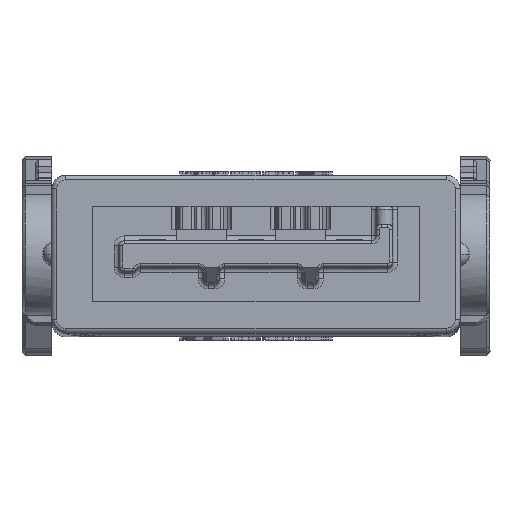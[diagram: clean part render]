
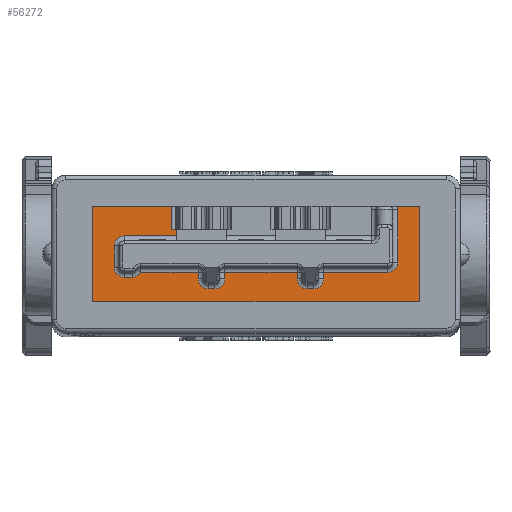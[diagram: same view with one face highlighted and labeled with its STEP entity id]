
A CAD part, top view. The second image highlights one B-rep face of the part: STEP entity #56272.
In plain terms, the highlighted planar face has unit normal (0, 0, 1).
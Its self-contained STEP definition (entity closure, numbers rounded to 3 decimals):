
#16370=DIRECTION('',(0.,-1.,0.));
#16371=VECTOR('',#16370,2.9);
#16372=CARTESIAN_POINT('',(4.8,1.45,33.));
#16373=LINE('',#16372,#16371);
#16390=DIRECTION('',(0.,1.,0.));
#16391=VECTOR('',#16390,2.9);
#16392=CARTESIAN_POINT('',(-5.1,-1.45,33.));
#16393=LINE('',#16392,#16391);
#16406=DIRECTION('',(0.,-1.,0.));
#16407=VECTOR('',#16406,0.7);
#16408=CARTESIAN_POINT('',(-2.7,1.45,33.));
#16409=LINE('',#16408,#16407);
#16686=CARTESIAN_POINT('',(-1.6,-0.75,33.));
#16687=DIRECTION('',(0.,0.,-1.));
#16688=DIRECTION('',(0.,-1.,0.));
#16689=AXIS2_PLACEMENT_3D('',#16686,#16687,#16688);
#16691=CARTESIAN_POINT('',(-1.4,-0.75,33.));
#16692=DIRECTION('',(0.,0.,-1.));
#16693=DIRECTION('',(1.,0.,0.));
#16694=AXIS2_PLACEMENT_3D('',#16691,#16692,#16693);
#16696=CARTESIAN_POINT('',(1.4,-0.75,33.));
#16697=DIRECTION('',(0.,0.,-1.));
#16698=DIRECTION('',(0.,-1.,0.));
#16699=AXIS2_PLACEMENT_3D('',#16696,#16697,#16698);
#16701=CARTESIAN_POINT('',(1.6,-0.75,33.));
#16702=DIRECTION('',(0.,0.,-1.));
#16703=DIRECTION('',(1.,0.,0.));
#16704=AXIS2_PLACEMENT_3D('',#16701,#16702,#16703);
#16706=DIRECTION('',(1.,0.,0.));
#16707=VECTOR('',#16706,1.95);
#16708=CARTESIAN_POINT('',(1.9,-0.55,33.));
#16709=LINE('',#16708,#16707);
#16710=CARTESIAN_POINT('',(3.85,-0.25,33.));
#16711=DIRECTION('',(0.,0.,-1.));
#16712=DIRECTION('',(1.,0.,0.));
#16713=AXIS2_PLACEMENT_3D('',#16710,#16711,#16712);
#16715=CARTESIAN_POINT('',(3.9,1.35,33.));
#16716=DIRECTION('',(0.,0.,-1.));
#16717=DIRECTION('',(0.917,0.4,0.));
#16718=AXIS2_PLACEMENT_3D('',#16715,#16716,#16717);
#16720=DIRECTION('',(-1.,0.,0.));
#16721=VECTOR('',#16720,0.671);
#16722=CARTESIAN_POINT('',(4.8,1.45,33.));
#16723=LINE('',#16722,#16721);
#16724=DIRECTION('',(1.,0.,0.));
#16725=VECTOR('',#16724,9.9);
#16726=CARTESIAN_POINT('',(-5.1,-1.45,33.));
#16727=LINE('',#16726,#16725);
#16728=DIRECTION('',(-1.,0.,0.));
#16729=VECTOR('',#16728,2.4);
#16730=CARTESIAN_POINT('',(-2.7,1.45,33.));
#16731=LINE('',#16730,#16729);
#16732=DIRECTION('',(-1.,0.,0.));
#16733=VECTOR('',#16732,1.6);
#16734=CARTESIAN_POINT('',(-2.55,0.55,33.));
#16735=LINE('',#16734,#16733);
#16736=CARTESIAN_POINT('',(-4.15,0.25,33.));
#16737=DIRECTION('',(0.,0.,-1.));
#16738=DIRECTION('',(-1.,0.,0.));
#16739=AXIS2_PLACEMENT_3D('',#16736,#16737,#16738);
#16741=CARTESIAN_POINT('',(-4.15,-0.4,33.));
#16742=DIRECTION('',(0.,0.,-1.));
#16743=DIRECTION('',(0.,-1.,0.));
#16744=AXIS2_PLACEMENT_3D('',#16741,#16742,#16743);
#16746=CARTESIAN_POINT('',(-3.91,-0.4,33.));
#16747=DIRECTION('',(0.,0.,-1.));
#16748=DIRECTION('',(0.866,-0.5,0.));
#16749=AXIS2_PLACEMENT_3D('',#16746,#16747,#16748);
#16751=DIRECTION('',(-1.,0.,0.));
#16752=VECTOR('',#16751,1.75);
#16753=CARTESIAN_POINT('',(-1.9,-0.55,33.));
#16754=LINE('',#16753,#16752);
#16780=DIRECTION('',(1.,0.,0.));
#16781=VECTOR('',#16780,0.24);
#16782=CARTESIAN_POINT('',(-4.15,-0.7,33.));
#16783=LINE('',#16782,#16781);
#16803=DIRECTION('',(0.,-1.,0.));
#16804=VECTOR('',#16803,0.65);
#16805=CARTESIAN_POINT('',(-4.45,0.25,33.));
#16806=LINE('',#16805,#16804);
#17364=DIRECTION('',(0.,-1.,0.));
#17365=VECTOR('',#17364,0.2);
#17366=CARTESIAN_POINT('',(-2.55,0.75,33.));
#17367=LINE('',#17366,#17365);
#17381=DIRECTION('',(1.,0.,0.));
#17382=VECTOR('',#17381,0.15);
#17383=CARTESIAN_POINT('',(-2.7,0.75,33.));
#17384=LINE('',#17383,#17382);
#18263=DIRECTION('',(-1.,0.,0.));
#18264=VECTOR('',#18263,2.2);
#18265=CARTESIAN_POINT('',(1.1,-0.55,33.));
#18266=LINE('',#18265,#18264);
#18287=DIRECTION('',(0.,1.,0.));
#18288=VECTOR('',#18287,0.2);
#18289=CARTESIAN_POINT('',(-1.1,-0.75,33.));
#18290=LINE('',#18289,#18288);
#18314=DIRECTION('',(1.,0.,0.));
#18315=VECTOR('',#18314,0.2);
#18316=CARTESIAN_POINT('',(-1.6,-1.05,33.));
#18317=LINE('',#18316,#18315);
#18337=DIRECTION('',(0.,-1.,0.));
#18338=VECTOR('',#18337,0.2);
#18339=CARTESIAN_POINT('',(-1.9,-0.55,33.));
#18340=LINE('',#18339,#18338);
#18637=DIRECTION('',(0.,1.,0.));
#18638=VECTOR('',#18637,0.2);
#18639=CARTESIAN_POINT('',(1.9,-0.75,33.));
#18640=LINE('',#18639,#18638);
#18664=DIRECTION('',(1.,0.,0.));
#18665=VECTOR('',#18664,0.2);
#18666=CARTESIAN_POINT('',(1.4,-1.05,33.));
#18667=LINE('',#18666,#18665);
#18687=DIRECTION('',(0.,-1.,0.));
#18688=VECTOR('',#18687,0.2);
#18689=CARTESIAN_POINT('',(1.1,-0.55,33.));
#18690=LINE('',#18689,#18688);
#18813=DIRECTION('',(0.,1.,0.));
#18814=VECTOR('',#18813,1.6);
#18815=CARTESIAN_POINT('',(4.15,-0.25,33.));
#18816=LINE('',#18815,#18814);
#18827=CARTESIAN_POINT('',(4.129,1.45,33.));
#22696=CARTESIAN_POINT('',(-5.1,-1.45,33.));
#22697=CARTESIAN_POINT('',(-5.1,1.45,33.));
#22698=VERTEX_POINT('',#22696);
#22699=VERTEX_POINT('',#22697);
#22700=CARTESIAN_POINT('',(-2.7,1.45,33.));
#22701=VERTEX_POINT('',#22700);
#22783=VERTEX_POINT('',#18827);
#22784=CARTESIAN_POINT('',(4.8,1.45,33.));
#22785=VERTEX_POINT('',#22784);
#22786=CARTESIAN_POINT('',(4.8,-1.45,33.));
#22787=VERTEX_POINT('',#22786);
#22788=CARTESIAN_POINT('',(-1.1,-0.75,33.));
#22789=CARTESIAN_POINT('',(-1.1,-0.55,33.));
#22790=VERTEX_POINT('',#22788);
#22791=VERTEX_POINT('',#22789);
#22792=CARTESIAN_POINT('',(-1.4,-1.05,33.));
#22793=VERTEX_POINT('',#22792);
#22794=CARTESIAN_POINT('',(-1.6,-1.05,33.));
#22795=VERTEX_POINT('',#22794);
#22796=CARTESIAN_POINT('',(-1.9,-0.75,33.));
#22797=VERTEX_POINT('',#22796);
#22798=CARTESIAN_POINT('',(-1.9,-0.55,33.));
#22799=VERTEX_POINT('',#22798);
#22800=CARTESIAN_POINT('',(-3.65,-0.55,33.));
#22801=CARTESIAN_POINT('',(-3.91,-0.7,33.));
#22802=VERTEX_POINT('',#22800);
#22803=VERTEX_POINT('',#22801);
#22804=CARTESIAN_POINT('',(-4.15,-0.7,33.));
#22805=VERTEX_POINT('',#22804);
#22806=CARTESIAN_POINT('',(-4.45,-0.4,33.));
#22807=VERTEX_POINT('',#22806);
#22808=CARTESIAN_POINT('',(-4.45,0.25,33.));
#22809=VERTEX_POINT('',#22808);
#22810=CARTESIAN_POINT('',(-4.15,0.55,33.));
#22811=VERTEX_POINT('',#22810);
#22812=CARTESIAN_POINT('',(-2.55,0.75,33.));
#22813=CARTESIAN_POINT('',(-2.55,0.55,33.));
#22814=VERTEX_POINT('',#22812);
#22815=VERTEX_POINT('',#22813);
#22816=CARTESIAN_POINT('',(-2.7,0.75,33.));
#22817=VERTEX_POINT('',#22816);
#22818=CARTESIAN_POINT('',(4.15,1.35,33.));
#22819=VERTEX_POINT('',#22818);
#22820=CARTESIAN_POINT('',(4.15,-0.25,33.));
#22821=VERTEX_POINT('',#22820);
#22822=CARTESIAN_POINT('',(3.85,-0.55,33.));
#22823=VERTEX_POINT('',#22822);
#22824=CARTESIAN_POINT('',(1.9,-0.75,33.));
#22825=CARTESIAN_POINT('',(1.9,-0.55,33.));
#22826=VERTEX_POINT('',#22824);
#22827=VERTEX_POINT('',#22825);
#22828=CARTESIAN_POINT('',(1.6,-1.05,33.));
#22829=VERTEX_POINT('',#22828);
#22830=CARTESIAN_POINT('',(1.4,-1.05,33.));
#22831=VERTEX_POINT('',#22830);
#22832=CARTESIAN_POINT('',(1.1,-0.75,33.));
#22833=VERTEX_POINT('',#22832);
#22834=CARTESIAN_POINT('',(1.1,-0.55,33.));
#22835=VERTEX_POINT('',#22834);
#56211=CARTESIAN_POINT('',(-1.75,0.,33.));
#56212=DIRECTION('',(0.,0.,1.));
#56213=DIRECTION('',(1.,0.,0.));
#56214=AXIS2_PLACEMENT_3D('',#56211,#56212,#56213);
#56215=PLANE('',#56214);
#56217=ORIENTED_EDGE('',*,*,#56216,.F.);
#56219=ORIENTED_EDGE('',*,*,#56218,.T.);
#56221=ORIENTED_EDGE('',*,*,#56220,.F.);
#56223=ORIENTED_EDGE('',*,*,#56222,.T.);
#56225=ORIENTED_EDGE('',*,*,#56224,.F.);
#56227=ORIENTED_EDGE('',*,*,#56226,.T.);
#56229=ORIENTED_EDGE('',*,*,#56228,.F.);
#56231=ORIENTED_EDGE('',*,*,#56230,.T.);
#56233=ORIENTED_EDGE('',*,*,#56232,.F.);
#56235=ORIENTED_EDGE('',*,*,#56234,.T.);
#56237=ORIENTED_EDGE('',*,*,#56236,.F.);
#56239=ORIENTED_EDGE('',*,*,#56238,.T.);
#56241=ORIENTED_EDGE('',*,*,#56240,.T.);
#56243=ORIENTED_EDGE('',*,*,#56242,.F.);
#56245=ORIENTED_EDGE('',*,*,#56244,.T.);
#56247=ORIENTED_EDGE('',*,*,#56246,.F.);
#56248=ORIENTED_EDGE('',*,*,#56184,.F.);
#56249=ORIENTED_EDGE('',*,*,#55477,.T.);
#56250=ORIENTED_EDGE('',*,*,#55499,.F.);
#56251=ORIENTED_EDGE('',*,*,#55520,.T.);
#56252=ORIENTED_EDGE('',*,*,#55541,.F.);
#56253=ORIENTED_EDGE('',*,*,#55565,.T.);
#56255=ORIENTED_EDGE('',*,*,#56254,.T.);
#56257=ORIENTED_EDGE('',*,*,#56256,.T.);
#56259=ORIENTED_EDGE('',*,*,#56258,.T.);
#56261=ORIENTED_EDGE('',*,*,#56260,.F.);
#56263=ORIENTED_EDGE('',*,*,#56262,.T.);
#56265=ORIENTED_EDGE('',*,*,#56264,.F.);
#56267=ORIENTED_EDGE('',*,*,#56266,.T.);
#56269=ORIENTED_EDGE('',*,*,#56268,.F.);
#56270=EDGE_LOOP('',(#56217,#56219,#56221,#56223,#56225,#56227,#56229,#56231,
#56233,#56235,#56237,#56239,#56241,#56243,#56245,#56247,#56248,#56249,#56250,
#56251,#56252,#56253,#56255,#56257,#56259,#56261,#56263,#56265,#56267,#56269));
#56271=FACE_OUTER_BOUND('',#56270,.F.);
#56272=ADVANCED_FACE('',(#56271),#56215,.T.);
#16690=CIRCLE('',#16689,0.3);
#16695=CIRCLE('',#16694,0.3);
#16700=CIRCLE('',#16699,0.3);
#16705=CIRCLE('',#16704,0.3);
#16714=CIRCLE('',#16713,0.3);
#16719=CIRCLE('',#16718,0.25);
#16740=CIRCLE('',#16739,0.3);
#16745=CIRCLE('',#16744,0.3);
#16750=CIRCLE('',#16749,0.3);
#55477=EDGE_CURVE('',#22785,#22787,#16373,.T.);
#55499=EDGE_CURVE('',#22698,#22787,#16727,.T.);
#55520=EDGE_CURVE('',#22698,#22699,#16393,.T.);
#55541=EDGE_CURVE('',#22701,#22699,#16731,.T.);
#55565=EDGE_CURVE('',#22701,#22817,#16409,.T.);
#56184=EDGE_CURVE('',#22785,#22783,#16723,.T.);
#56216=EDGE_CURVE('',#22799,#22802,#16754,.T.);
#56218=EDGE_CURVE('',#22799,#22797,#18340,.T.);
#56220=EDGE_CURVE('',#22795,#22797,#16690,.T.);
#56222=EDGE_CURVE('',#22795,#22793,#18317,.T.);
#56224=EDGE_CURVE('',#22790,#22793,#16695,.T.);
#56226=EDGE_CURVE('',#22790,#22791,#18290,.T.);
#56228=EDGE_CURVE('',#22835,#22791,#18266,.T.);
#56230=EDGE_CURVE('',#22835,#22833,#18690,.T.);
#56232=EDGE_CURVE('',#22831,#22833,#16700,.T.);
#56234=EDGE_CURVE('',#22831,#22829,#18667,.T.);
#56236=EDGE_CURVE('',#22826,#22829,#16705,.T.);
#56238=EDGE_CURVE('',#22826,#22827,#18640,.T.);
#56240=EDGE_CURVE('',#22827,#22823,#16709,.T.);
#56242=EDGE_CURVE('',#22821,#22823,#16714,.T.);
#56244=EDGE_CURVE('',#22821,#22819,#18816,.T.);
#56246=EDGE_CURVE('',#22783,#22819,#16719,.T.);
#56254=EDGE_CURVE('',#22817,#22814,#17384,.T.);
#56256=EDGE_CURVE('',#22814,#22815,#17367,.T.);
#56258=EDGE_CURVE('',#22815,#22811,#16735,.T.);
#56260=EDGE_CURVE('',#22809,#22811,#16740,.T.);
#56262=EDGE_CURVE('',#22809,#22807,#16806,.T.);
#56264=EDGE_CURVE('',#22805,#22807,#16745,.T.);
#56266=EDGE_CURVE('',#22805,#22803,#16783,.T.);
#56268=EDGE_CURVE('',#22802,#22803,#16750,.T.);
